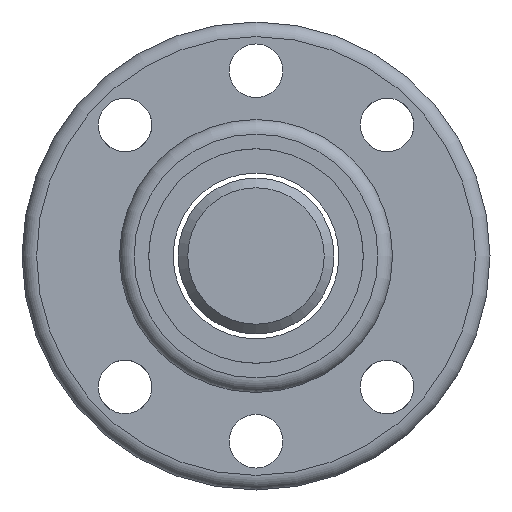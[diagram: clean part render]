
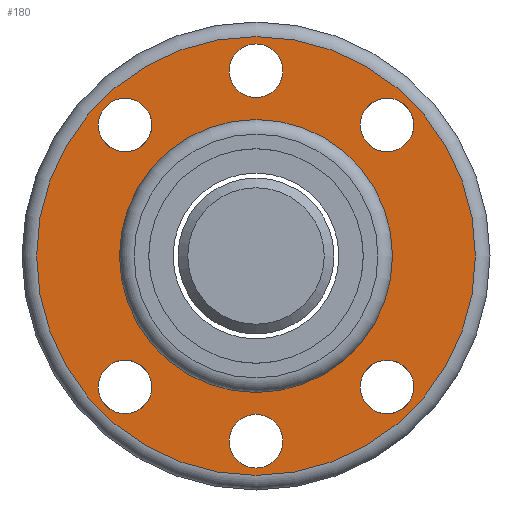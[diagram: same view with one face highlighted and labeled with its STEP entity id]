
A CAD part, left-side view. The second image highlights one B-rep face of the part: STEP entity #180.
In plain terms, the highlighted planar face has unit normal (-1, 0, 0).
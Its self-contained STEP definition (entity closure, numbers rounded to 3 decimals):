
#129=PLANE('',#715);
#146=FACE_OUTER_BOUND('',#367,.T.);
#180=ADVANCED_FACE('',(#265,#266,#267,#268,#269,#270,#146,#271),#129,.F.);
#265=FACE_BOUND('',#361,.T.);
#266=FACE_BOUND('',#362,.T.);
#267=FACE_BOUND('',#363,.T.);
#268=FACE_BOUND('',#364,.T.);
#269=FACE_BOUND('',#365,.T.);
#270=FACE_BOUND('',#366,.T.);
#271=FACE_BOUND('',#368,.T.);
#361=EDGE_LOOP('',(#459));
#362=EDGE_LOOP('',(#460));
#363=EDGE_LOOP('',(#461));
#364=EDGE_LOOP('',(#462));
#365=EDGE_LOOP('',(#463));
#366=EDGE_LOOP('',(#464));
#367=EDGE_LOOP('',(#465));
#368=EDGE_LOOP('',(#466));
#459=ORIENTED_EDGE('',*,*,#577,.T.);
#460=ORIENTED_EDGE('',*,*,#578,.T.);
#461=ORIENTED_EDGE('',*,*,#579,.T.);
#462=ORIENTED_EDGE('',*,*,#580,.T.);
#463=ORIENTED_EDGE('',*,*,#581,.T.);
#464=ORIENTED_EDGE('',*,*,#582,.T.);
#465=ORIENTED_EDGE('',*,*,#583,.F.);
#466=ORIENTED_EDGE('',*,*,#576,.T.);
#527=VERTEX_POINT('',#1027);
#528=VERTEX_POINT('',#1030);
#529=VERTEX_POINT('',#1032);
#530=VERTEX_POINT('',#1034);
#531=VERTEX_POINT('',#1036);
#532=VERTEX_POINT('',#1038);
#533=VERTEX_POINT('',#1040);
#534=VERTEX_POINT('',#1042);
#576=EDGE_CURVE('',#527,#527,#625,.T.);
#577=EDGE_CURVE('',#528,#528,#626,.T.);
#578=EDGE_CURVE('',#529,#529,#627,.T.);
#579=EDGE_CURVE('',#530,#530,#628,.T.);
#580=EDGE_CURVE('',#531,#531,#629,.T.);
#581=EDGE_CURVE('',#532,#532,#630,.T.);
#582=EDGE_CURVE('',#533,#533,#631,.T.);
#583=EDGE_CURVE('',#534,#534,#632,.T.);
#625=CIRCLE('',#706,14.);
#626=CIRCLE('',#708,2.75);
#627=CIRCLE('',#709,2.75);
#628=CIRCLE('',#710,2.75);
#629=CIRCLE('',#711,2.75);
#630=CIRCLE('',#712,2.75);
#631=CIRCLE('',#713,2.75);
#632=CIRCLE('',#714,22.5);
#706=AXIS2_PLACEMENT_3D('',#1026,#870,#871);
#708=AXIS2_PLACEMENT_3D('',#1029,#874,#875);
#709=AXIS2_PLACEMENT_3D('',#1031,#876,#877);
#710=AXIS2_PLACEMENT_3D('',#1033,#878,#879);
#711=AXIS2_PLACEMENT_3D('',#1035,#880,#881);
#712=AXIS2_PLACEMENT_3D('',#1037,#882,#883);
#713=AXIS2_PLACEMENT_3D('',#1039,#884,#885);
#714=AXIS2_PLACEMENT_3D('',#1041,#886,#887);
#715=AXIS2_PLACEMENT_3D('',#1043,#888,#889);
#870=DIRECTION('',(1.,0.,0.));
#871=DIRECTION('',(0.,1.,0.));
#874=DIRECTION('',(1.,0.,0.));
#875=DIRECTION('',(0.,1.,0.));
#876=DIRECTION('',(1.,0.,0.));
#877=DIRECTION('',(0.,1.,0.));
#878=DIRECTION('',(1.,0.,0.));
#879=DIRECTION('',(0.,1.,0.));
#880=DIRECTION('',(1.,0.,0.));
#881=DIRECTION('',(0.,1.,0.));
#882=DIRECTION('',(1.,0.,0.));
#883=DIRECTION('',(0.,1.,0.));
#884=DIRECTION('',(1.,0.,0.));
#885=DIRECTION('',(0.,1.,0.));
#886=DIRECTION('',(1.,0.,0.));
#887=DIRECTION('',(0.,1.,0.));
#888=DIRECTION('',(1.,0.,0.));
#889=DIRECTION('',(0.,1.,0.));
#1026=CARTESIAN_POINT('',(-25.,0.,0.));
#1027=CARTESIAN_POINT('',(-25.,14.,0.));
#1029=CARTESIAN_POINT('',(-25.,13.435,13.435));
#1030=CARTESIAN_POINT('',(-25.,16.185,13.435));
#1031=CARTESIAN_POINT('',(-25.,13.435,-13.435));
#1032=CARTESIAN_POINT('',(-25.,16.185,-13.435));
#1033=CARTESIAN_POINT('',(-25.,0.,-19.));
#1034=CARTESIAN_POINT('',(-25.,2.75,-19.));
#1035=CARTESIAN_POINT('',(-25.,-13.435,-13.435));
#1036=CARTESIAN_POINT('',(-25.,-10.685,-13.435));
#1037=CARTESIAN_POINT('',(-25.,-13.435,13.435));
#1038=CARTESIAN_POINT('',(-25.,-10.685,13.435));
#1039=CARTESIAN_POINT('',(-25.,0.,19.));
#1040=CARTESIAN_POINT('',(-25.,2.75,19.));
#1041=CARTESIAN_POINT('',(-25.,0.,0.));
#1042=CARTESIAN_POINT('',(-25.,22.5,0.));
#1043=CARTESIAN_POINT('',(-25.,18.25,0.));
